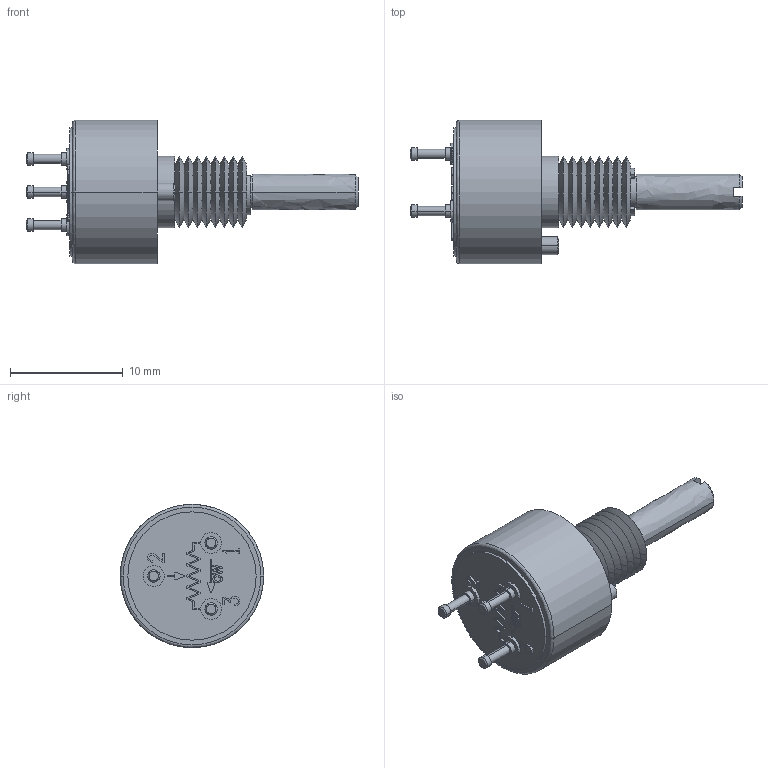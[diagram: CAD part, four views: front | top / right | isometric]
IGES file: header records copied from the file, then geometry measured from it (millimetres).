
Start section: Elysium IGES Interface
Global section: file name: H:\users\dave\140\140_(3D_MODEL).igs; native system: Creo Elements/Direct Modeling 18.1D  22-Jun-2013; preprocessor: Creo Element/Direct IGES_3D V2.2; author: Unknown; organization: Unknown; date: 20180730.123857; units: millimetre
Bounding box: 29.39 x 12.7 x 12.7 mm (x, y, z)
Volume: 1270.4 mm3; surface area: 1000 mm2
Topology: 1 solids, 1 shells, 400 faces, 1080 edges, 708 vertices
Faces by surface type: bspline 400
